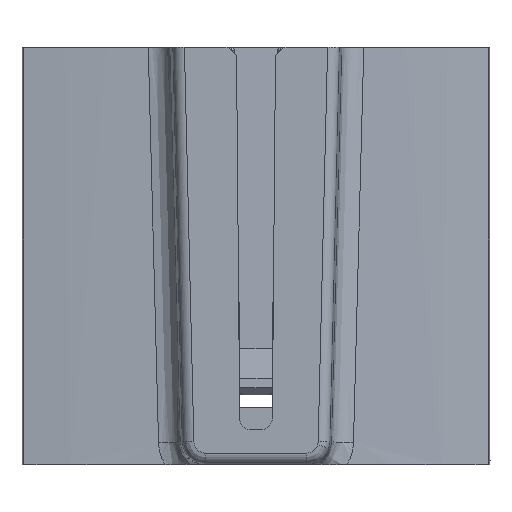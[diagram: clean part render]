
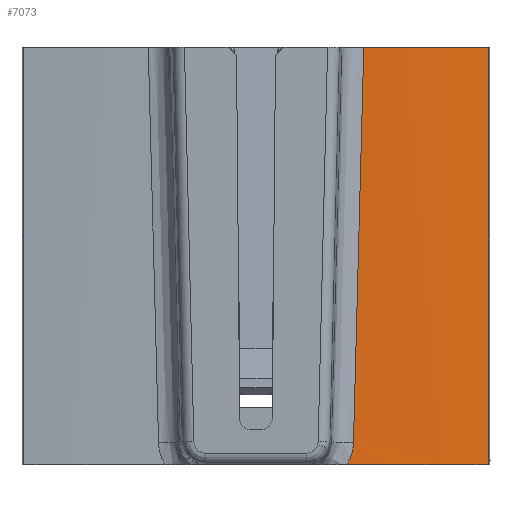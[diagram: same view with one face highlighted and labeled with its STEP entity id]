
A CAD part, top view. The second image highlights one B-rep face of the part: STEP entity #7073.
In plain terms, the highlighted cylindrical face has radius 202.488 mm (diameter 404.975 mm), a partial arc.
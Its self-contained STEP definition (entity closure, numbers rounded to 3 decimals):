
#446 = DIRECTION ( 'NONE',  ( 0., 0., -1. ) ) ;
#453 = DIRECTION ( 'NONE',  ( 0., -1., 0. ) ) ;
#454 = CARTESIAN_POINT ( 'NONE',  ( 0., 73.143, -202.5 ) ) ;
#648 = AXIS2_PLACEMENT_3D ( 'NONE', #454, #453, #446 ) ;
#713 = AXIS2_PLACEMENT_3D ( 'NONE', #4694, #4695, #4696 ) ;
#3015 = CARTESIAN_POINT ( 'NONE',  ( 9.304, 33., -0.226 ) ) ;
#3053 = CARTESIAN_POINT ( 'NONE',  ( 7.883, -3., -0.166 ) ) ;
#3061 = CARTESIAN_POINT ( 'NONE',  ( 20.053, -3., -1.008 ) ) ;
#3072 = CARTESIAN_POINT ( 'NONE',  ( 20.053, 33., -1.008 ) ) ;
#3094 = CARTESIAN_POINT ( 'NONE',  ( 8.416, -1.104, -0.187 ) ) ;
#4694 = CARTESIAN_POINT ( 'NONE',  ( 0., -3., -202.5 ) ) ;
#4695 = DIRECTION ( 'NONE',  ( 0., -1., 0. ) ) ;
#4696 = DIRECTION ( 'NONE',  ( 0., 0., -1. ) ) ;
#4799 = AXIS2_PLACEMENT_3D ( 'NONE', #5446, #5447, #5448 ) ;
#5004 = CIRCLE ( 'NONE', #713, 202.488 ) ;
#5026 = CIRCLE ( 'NONE', #4799, 202.488 ) ;
#5065 = LINE ( 'NONE', #5529, #5066 ) ;
#5066 = VECTOR ( 'NONE', #5530, 1000. ) ;
#5446 = CARTESIAN_POINT ( 'NONE',  ( 0., 33., -202.5 ) ) ;
#5447 = DIRECTION ( 'NONE',  ( 0., -1., 0. ) ) ;
#5448 = DIRECTION ( 'NONE',  ( 0., 0., 1. ) ) ;
#5529 = CARTESIAN_POINT ( 'NONE',  ( 20.053, 73.143, -1.008 ) ) ;
#5530 = DIRECTION ( 'NONE',  ( 0., -1., 0. ) ) ;
#5591 = CARTESIAN_POINT ( 'NONE',  ( 9.008, 21.635, -0.213 ) ) ;
#5592 = CARTESIAN_POINT ( 'NONE',  ( 9.304, 33., -0.226 ) ) ;
#5597 = CARTESIAN_POINT ( 'NONE',  ( 8.408, -1.438, -0.187 ) ) ;
#5598 = CARTESIAN_POINT ( 'NONE',  ( 8.416, -1.104, -0.187 ) ) ;
#5599 = CARTESIAN_POINT ( 'NONE',  ( 8.712, 10.267, -0.2 ) ) ;
#5600 = CARTESIAN_POINT ( 'NONE',  ( 8.416, -1.104, -0.187 ) ) ;
#5603 = CARTESIAN_POINT ( 'NONE',  ( 8.358, -1.764, -0.185 ) ) ;
#5604 = CARTESIAN_POINT ( 'NONE',  ( 8.18, -2.4, -0.178 ) ) ;
#5605 = CARTESIAN_POINT ( 'NONE',  ( 8.05, -2.711, -0.172 ) ) ;
#5606 = CARTESIAN_POINT ( 'NONE',  ( 7.883, -3., -0.166 ) ) ;
#6332 =( BOUNDED_CURVE ( )  B_SPLINE_CURVE ( 3, ( #5592, #5591, #5599, #5600 ),
 .UNSPECIFIED., .F., .F. ) 
 B_SPLINE_CURVE_WITH_KNOTS ( ( 4, 4 ),
 ( 4.579, 4.584 ),
 .UNSPECIFIED. ) 
 CURVE ( )  GEOMETRIC_REPRESENTATION_ITEM ( )  RATIONAL_B_SPLINE_CURVE ( ( 1., 1., 1., 1. ) ) 
 REPRESENTATION_ITEM ( '' )  );
#6333 = B_SPLINE_CURVE_WITH_KNOTS ( 'NONE', 3,
 ( #5598, #5597, #5603, #5604, #5605, #5606 ),
 .UNSPECIFIED., .F., .F.,
 ( 4, 2, 4 ),
 ( 0., 0.001, 0.002 ),
 .UNSPECIFIED. ) ;
#7073 = ADVANCED_FACE ( 'NONE', ( #10078 ), #10082, .T. ) ;
#7157 = EDGE_LOOP ( 'NONE', ( #8770, #8771, #8772, #8773, #8774 ) ) ;
#7704 = VERTEX_POINT ( 'NONE', #3015 ) ;
#7742 = VERTEX_POINT ( 'NONE', #3053 ) ;
#7750 = VERTEX_POINT ( 'NONE', #3061 ) ;
#7761 = VERTEX_POINT ( 'NONE', #3072 ) ;
#7783 = VERTEX_POINT ( 'NONE', #3094 ) ;
#8770 = ORIENTED_EDGE ( 'NONE', *, *, #9032, .T. ) ;
#8771 = ORIENTED_EDGE ( 'NONE', *, *, #9072, .T. ) ;
#8772 = ORIENTED_EDGE ( 'NONE', *, *, #9073, .T. ) ;
#8773 = ORIENTED_EDGE ( 'NONE', *, *, #9016, .F. ) ;
#8774 = ORIENTED_EDGE ( 'NONE', *, *, #9060, .F. ) ;
#9016 = EDGE_CURVE ( 'NONE', #7750, #7742, #5004, .T. ) ;
#9032 = EDGE_CURVE ( 'NONE', #7761, #7704, #5026, .T. ) ;
#9060 = EDGE_CURVE ( 'NONE', #7761, #7750, #5065, .T. ) ;
#9072 = EDGE_CURVE ( 'NONE', #7704, #7783, #6332, .T. ) ;
#9073 = EDGE_CURVE ( 'NONE', #7783, #7742, #6333, .T. ) ;
#10078 = FACE_OUTER_BOUND ( 'NONE', #7157, .T. ) ;
#10082 = CYLINDRICAL_SURFACE ( 'NONE', #648, 202.488 ) ;
